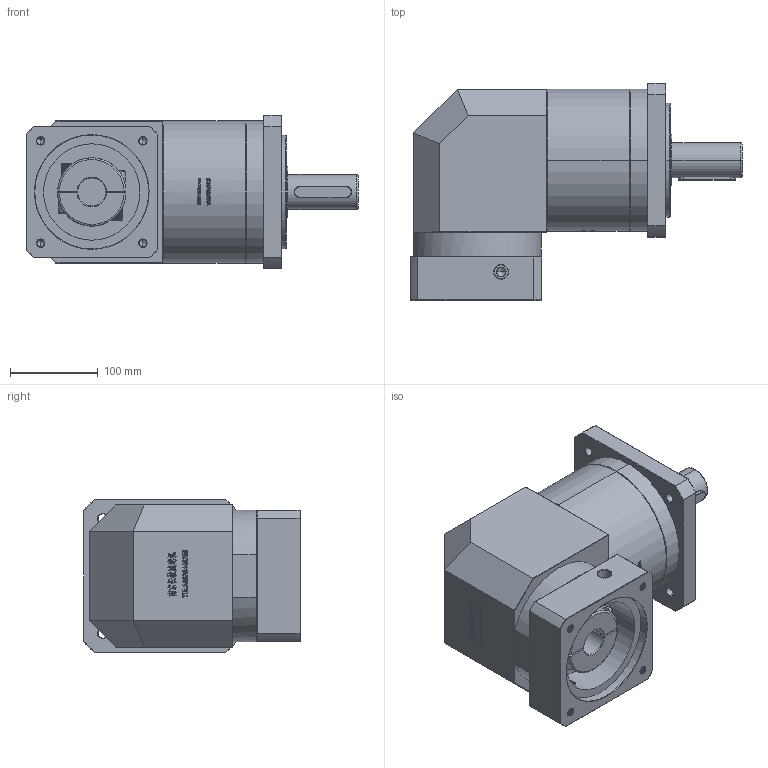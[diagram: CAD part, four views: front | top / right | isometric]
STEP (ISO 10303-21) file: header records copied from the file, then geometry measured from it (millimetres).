
FILE_DESCRIPTION (( 'STEP AP214' ), '1' );
FILE_NAME ('ZFR160A-D40-L2-32-130-165-M10.step', '2023-03-22T11:44:37', ( '' ), ( '' ), 'SwSTEP 2.0', 'SolidWorks 2016', '' );
FILE_SCHEMA (( 'AUTOMOTIVE_DESIGN' ));
Length unit declared in the file: millimetre
Products named in the file (1): ZFR160A-D40-L2-32-130-165-M10
Bounding box: 378.7 x 247.5 x 175 mm (x, y, z)
Volume: 7447444.4 mm3; surface area: 461264.6 mm2
Topology: 6 solids, 6 shells, 2515 faces, 6621 edges, 4259 vertices
Faces by surface type: plane 1275, bspline 488, cylinder 411, cone 306, torus 35
Entity records: 143988 total; most frequent: CARTESIAN_POINT 58534, ORIENTED_EDGE 13182, DIRECTION 10055, EDGE_CURVE 6591, VERTEX_POINT 4259, VECTOR 4151, LINE 4151, AXIS2_PLACEMENT_3D 2952
